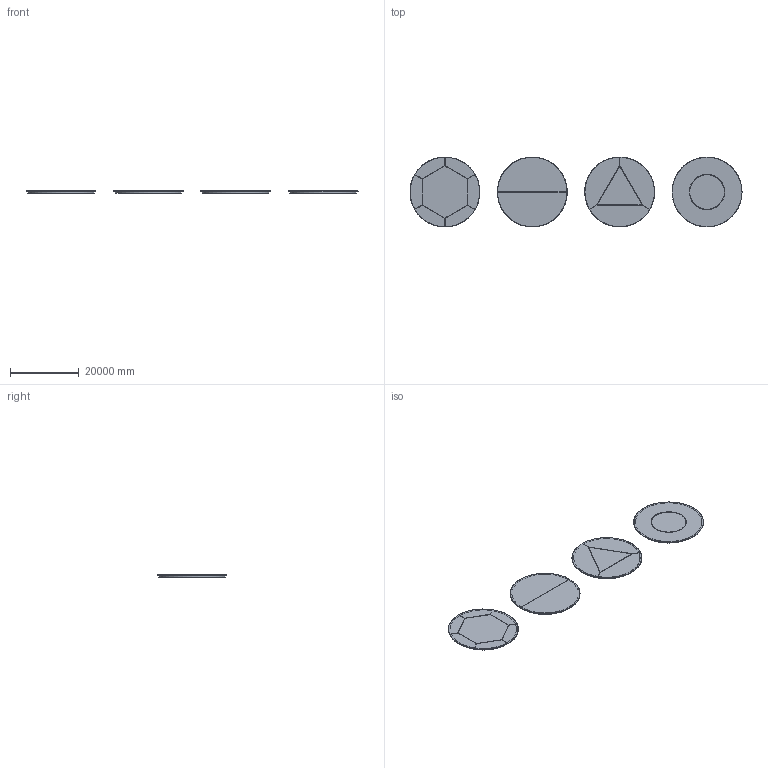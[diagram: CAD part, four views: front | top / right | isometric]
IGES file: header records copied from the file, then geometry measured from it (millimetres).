
Global section: file name: C:\Users\Luca\Desktop\specchi.igs; native system: Rhinoceros ( Oct 17 2007 ); preprocessor: Trout Lake IGES 012 Oct 17 2007; date: 130225.103643; units: inch
Bounding box: 96507.95 x 20320 x 635 mm (x, y, z)
Surface area: 5115186391 mm2 (no closed solid volume)
Topology: 0 solids, 0 shells, 146 faces, 606 edges, 600 vertices
Faces by surface type: bspline 146
